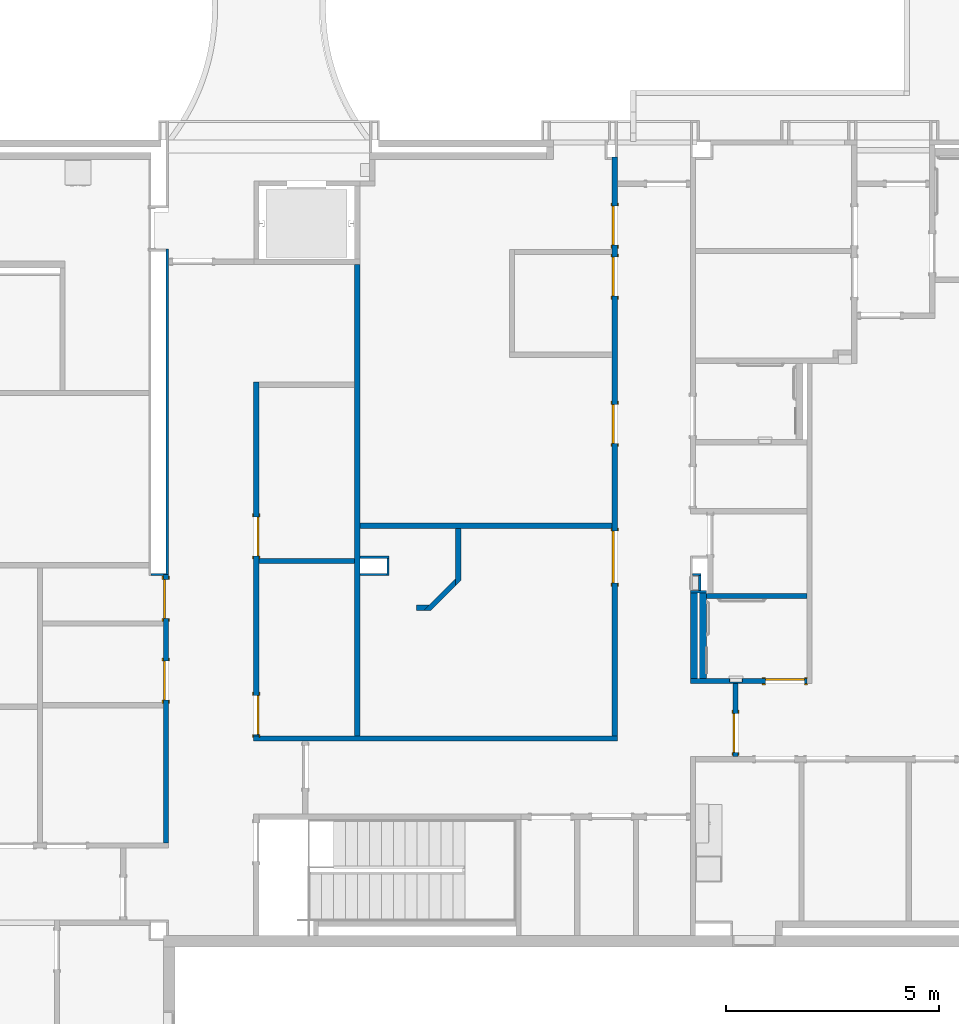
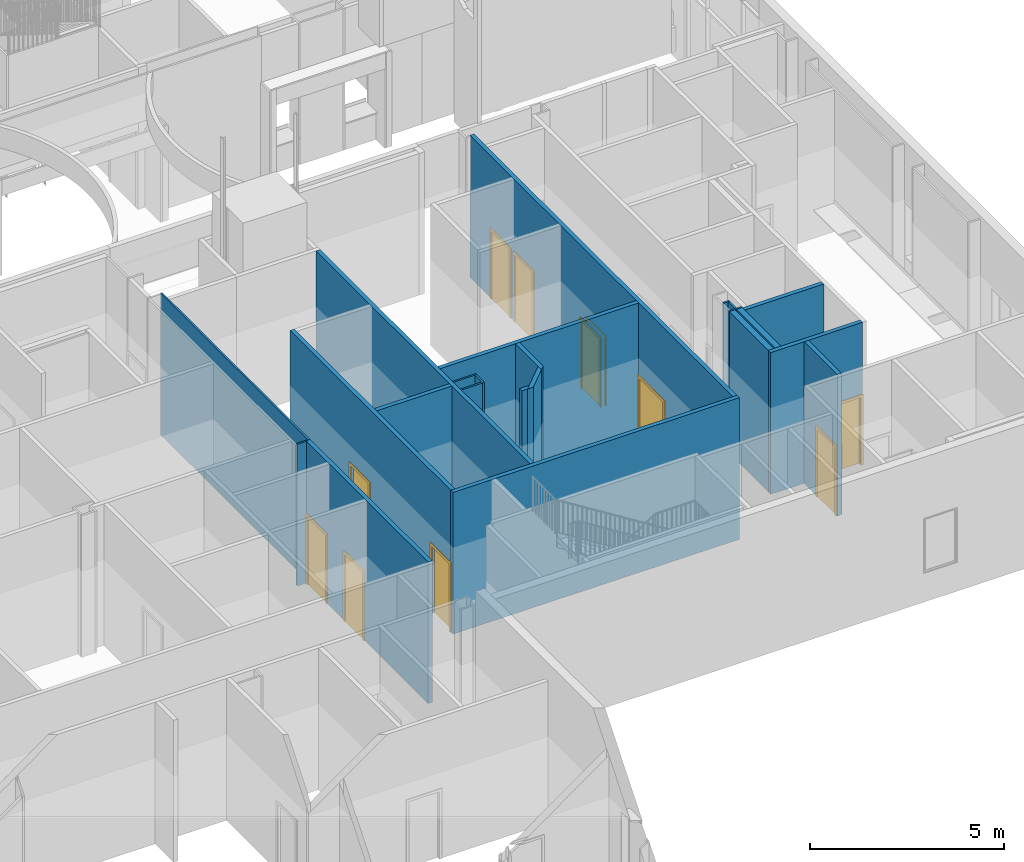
# One storey, part 24 of 87: 23 walls, 10 doors, 11 openings.
"""IFC2X3 building model written with IfcOpenShell, lengths in metres."""

from ifc_helpers import new_model, entity, si_unit, converted_unit, frame, frame_2d, origin, origin_2d_with_axis, place, context, project, spatial, polyline, rectangle, outline, extrude, source, transform, mapped, material, layer, layer_set, layer_usage, type_object, type_shapes, element, fill, save


model = new_model("IFC2X3")

# Units and contexts
model_context = context("Model", 3, precision=1e-09, world=origin())
plan_context = context("Plan", 3, precision=1e-09, world=origin())
ifc_project = project(units=[si_unit("LENGTHUNIT", "METRE"), si_unit("AREAUNIT", "SQUARE_METRE"), si_unit("VOLUMEUNIT", "CUBIC_METRE"), converted_unit("PLANEANGLEUNIT", "DEGREE", entity("IfcRatioMeasure", 0.01745329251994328), si_unit("PLANEANGLEUNIT", "RADIAN"), dimensions=[0, 0, 0, 0, 0, 0, 0]), si_unit("TIMEUNIT", "SECOND")], contexts=[model_context, plan_context])

# Site, building, storey
site_placement = place(None, origin())
site = spatial("IfcSite", under=ifc_project, at=site_placement, Name="Default", CompositionType="ELEMENT")
building_placement = place(site_placement, origin())
building = spatial("IfcBuilding", under=site, at=building_placement, CompositionType="ELEMENT")
storey_placement = place(building_placement, origin())
storey = spatial("IfcBuildingStorey", under=building, at=storey_placement, Name="First Floor", CompositionType="ELEMENT", Elevation=-3.531500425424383e-13)

# Wall, openings, doors
ifc_material_1 = material(Name="Plasterboard")
ifc_layer_1 = layer(ifc_material_1, 0.016)
ifc_material_2 = material(Name="Metal - Stud Layer")
ifc_layer_2 = layer(ifc_material_2, 0.092)
ifc_layer_3 = layer(ifc_material_1, 0.016)
ifc_layer_set_1 = layer_set([ifc_layer_1, ifc_layer_2, ifc_layer_3], Name="Basic Wall:Interior - Partition (92mm Stud)")
ifc_layer_usage_1 = layer_usage(ifc_layer_set_1, "AXIS2", "NEGATIVE", 0.062)
wall_1_placement = place(storey_placement, frame((-19.89200000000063, 18.40699999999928, 0.0), z_axis=(0.0, 0.0, 1.0), x_axis=(0.0, -1.0, 0.0)))
wall_1 = element("IfcWallStandardCase", 1, at=wall_1_placement, inside=storey, material=ifc_layer_usage_1, Name="Basic Wall:Interior - Partition (92mm Stud)", ObjectType="Basic Wall:Interior - Partition (92mm Stud)", context=model_context, shape_type="SweptSolid", body=[
    extrude(rectangle(XDim=6.303000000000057, YDim=0.1239999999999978, at=frame_2d((3.151500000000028, 0.0), x_axis=(-1.0, 0.0))), origin(), (0.0, 0.0, 1.0), 4.468000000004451),
])
opening_1_placement = place(wall_1_placement, frame((2.953000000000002, 0.06199999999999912, 0.0)))
opening_1 = element("IfcOpeningElement", 2, at=opening_1_placement, cuts=wall_1, Name="M_Single-Flush:0915 x 2134mm:0915 x 2134mm:1", ObjectType="Opening", context=model_context, shape_type="SweptSolid", body=[
    extrude(rectangle(XDim=0.9149999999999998, YDim=2.134, at=frame_2d((1.067, 0.4574999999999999), x_axis=(0.0, -1.0))), frame((0.0, 0.0, 0.0), z_axis=(0.0, -1.0, 0.0), x_axis=(0.0, 0.0, 1.0)), (0.0, 0.0, 1.0), 0.124),
])
opening_2_placement = place(wall_1_placement, frame((1.03299999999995, 0.06200000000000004, 0.0)))
opening_2 = element("IfcOpeningElement", 3, at=opening_2_placement, cuts=wall_1, Name="M_Single-Flush:0915 x 2134mm:0915 x 2134mm:1", ObjectType="Opening", context=model_context, shape_type="SweptSolid", body=[
    extrude(rectangle(XDim=0.9149999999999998, YDim=2.134, at=frame_2d((1.067, 0.4575000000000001), x_axis=(0.0, -1.0))), frame((0.0, 0.0, 0.0), z_axis=(0.0, -1.0, 0.0), x_axis=(0.0, 0.0, 1.0)), (0.0, 0.0, 1.0), 0.124),
])
door_style_1 = type_object("IfcDoorStyle", Name="0915 x 2134mm", ConstructionType="NOTDEFINED", OperationType="SINGLE_SWING_LEFT", ParameterTakesPrecedence=False, Sizeable=False)
shared_shape_1 = source(origin(), model_context, "Body", "SweptSolid", [
    extrude(outline(polyline([(-0.5335, -1.123999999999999), (0.5334999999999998, -1.123999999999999), (0.5334999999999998, 1.086), (0.4574999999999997, 1.086), (0.4574999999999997, -1.048000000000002), (-0.4574999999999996, -1.048000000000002), (-0.4574999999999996, 1.086), (-0.5335, 1.086), (-0.5335, -1.123999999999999)])), frame((0.4575000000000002, 0.1489999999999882, 1.086), z_axis=(0.0, -1.0, 0.0), x_axis=(-1.0, 0.0, 0.0)), (0.0, 0.0, 1.0), 0.02499999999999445),
    extrude(outline(polyline([(-1.123999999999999, -0.5334999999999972), (1.085999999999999, -0.5334999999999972), (1.085999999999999, -0.4575000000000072), (-1.048, -0.4575000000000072), (-1.048, 0.4575000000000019), (1.085999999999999, 0.4575000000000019), (1.085999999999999, 0.5335000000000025), (-1.123999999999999, 0.5335000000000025), (-1.123999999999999, -0.5334999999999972)])), frame((0.4574999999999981, 0.0, 1.085999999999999), z_axis=(0.0, -1.0, 0.0), x_axis=(0.0, 0.0, -1.0)), (0.0, 0.0, 1.0), 0.02500000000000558),
    extrude(rectangle(XDim=0.9149999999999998, YDim=0.051, at=origin_2d_with_axis()), frame((0.4575000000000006, 0.09849999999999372, 0.0)), (0.0, 0.0, 1.0), 2.133999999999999),
])
type_shapes(door_style_1, [shared_shape_1])
door_1_placement = place(opening_1_placement, frame((0.0, 0.0, 0.0), z_axis=(0.0, 0.0, 1.0), x_axis=(-1.0, 0.0, 0.0)))
door_1 = element("IfcDoor", 4, at=door_1_placement, inside=storey, type_object=door_style_1, Name="M_Single-Flush:0915 x 2134mm:0915 x 2134mm", ObjectType="0915 x 2134mm", OverallHeight=2.134, OverallWidth=0.9149999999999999, context=model_context, shape_type="MappedRepresentation", body=[
    mapped(shared_shape_1, transform((0.0, 0.0, 0.0), scale=1.0)),
])
fill(opening_1, door_1)
door_2_placement = place(opening_2_placement, frame((0.0, 0.0, 0.0), z_axis=(0.0, 0.0, 1.0), x_axis=(-1.0, 0.0, 0.0)))
door_2 = element("IfcDoor", 5, at=door_2_placement, inside=storey, type_object=door_style_1, Name="M_Single-Flush:0915 x 2134mm:0915 x 2134mm", ObjectType="0915 x 2134mm", OverallHeight=2.134, OverallWidth=0.9149999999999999, context=model_context, shape_type="MappedRepresentation", body=[
    mapped(shared_shape_1, transform((0.0, 0.0, 0.0), scale=1.0)),
])
fill(opening_2, door_2)

# Wall, openings, door
ifc_layer_usage_2 = layer_usage(ifc_layer_set_1, "AXIS2", "NEGATIVE", 0.062)
wall_2_placement = place(storey_placement, frame((-4.843975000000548, 15.90199999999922, 0.0), z_axis=(0.0, 0.0, 1.0), x_axis=(-1.0, 0.0, 0.0)))
wall_2 = element("IfcWallStandardCase", 6, at=wall_2_placement, inside=storey, material=ifc_layer_usage_2, Name="Basic Wall:Interior - Partition (92mm Stud)", ObjectType="Basic Wall:Interior - Partition (92mm Stud)", context=model_context, shape_type="SweptSolid", body=[
    extrude(rectangle(XDim=2.736000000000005, YDim=0.1240000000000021, at=frame_2d((1.368000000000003, 0.0), x_axis=(-1.0, 0.0))), origin(), (0.0, 0.0, 1.0), 4.468000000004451),
])
opening_3_placement = place(wall_2_placement, origin())
element("IfcOpeningElement", 7, at=opening_3_placement, cuts=wall_2, ObjectType="Opening", context=model_context, shape_type="SweptSolid", body=[
    extrude(rectangle(XDim=1.362075, YDim=0.2984500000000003, at=origin_2d_with_axis()), frame((1.660925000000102, -0.1255000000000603, 1.041399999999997), z_axis=(0.0, 1.0, 0.0), x_axis=(0.0, 0.0, -1.0)), (0.0, 0.0, 1.0), 0.1524000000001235),
])
opening_4_placement = place(wall_2_placement, frame((0.9750000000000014, 0.06199999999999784, 0.0)))
opening_4 = element("IfcOpeningElement", 8, at=opening_4_placement, cuts=wall_2, Name="M_Single-Flush:0915 x 2134mm:0915 x 2134mm:1", ObjectType="Opening", context=model_context, shape_type="SweptSolid", body=[
    extrude(rectangle(XDim=0.9150000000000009, YDim=2.134, at=frame_2d((1.067, 0.4575), x_axis=(0.0, 1.0))), frame((0.0, 0.0, 0.0), z_axis=(0.0, -1.0, 0.0), x_axis=(0.0, 0.0, 1.0)), (0.0, 0.0, 1.0), 0.124),
])
door_style_2 = type_object("IfcDoorStyle", Name="0915 x 2134mm", ConstructionType="NOTDEFINED", OperationType="SINGLE_SWING_RIGHT", ParameterTakesPrecedence=False, Sizeable=False)
shared_shape_2 = source(origin(), model_context, "Body", "SweptSolid", [
    extrude(outline(polyline([(-0.5335, -1.123999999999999), (0.5334999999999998, -1.123999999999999), (0.5334999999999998, 1.086), (0.4574999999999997, 1.086), (0.4574999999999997, -1.048000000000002), (-0.4574999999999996, -1.048000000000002), (-0.4574999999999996, 1.086), (-0.5335, 1.086), (-0.5335, -1.123999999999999)])), frame((0.4575000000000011, 0.1239999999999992, 1.086), z_axis=(0.0, 1.0, 0.0), x_axis=(1.0, 0.0, 0.0)), (0.0, 0.0, 1.0), 0.02499999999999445),
    extrude(outline(polyline([(-1.123999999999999, -0.5334999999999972), (1.085999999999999, -0.5334999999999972), (1.085999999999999, -0.4575000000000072), (-1.048, -0.4575000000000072), (-1.048, 0.4575000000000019), (1.085999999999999, 0.4575000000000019), (1.085999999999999, 0.5335000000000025), (-1.123999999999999, 0.5335000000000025), (-1.123999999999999, -0.5334999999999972)])), frame((0.4575000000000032, -0.02500000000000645, 1.085999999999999), z_axis=(0.0, 1.0, 0.0), x_axis=(0.0, 0.0, -1.0)), (0.0, 0.0, 1.0), 0.02500000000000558),
    extrude(rectangle(XDim=0.051, YDim=0.9149999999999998, at=origin_2d_with_axis()), frame((0.4575000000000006, 0.09849999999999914, 0.0), z_axis=(0.0, 0.0, 1.0), x_axis=(0.0, 1.0, 0.0)), (0.0, 0.0, 1.0), 2.133999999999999),
])
type_shapes(door_style_2, [shared_shape_2])
door_3_placement = place(opening_4_placement, frame((0.0, 0.0, 0.0), z_axis=(0.0, 0.0, 1.0), x_axis=(-1.0, 0.0, 0.0)))
door_3 = element("IfcDoor", 9, at=door_3_placement, inside=storey, type_object=door_style_2, Name="M_Single-Flush:0915 x 2134mm:0915 x 2134mm", ObjectType="0915 x 2134mm", OverallHeight=2.134, OverallWidth=0.9149999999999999, context=model_context, shape_type="MappedRepresentation", body=[
    mapped(shared_shape_2, transform((0.0, 0.0, 0.0), scale=1.0)),
])
fill(opening_4, door_3)

# Wall, opening, door
ifc_layer_usage_3 = layer_usage(ifc_layer_set_1, "AXIS2", "NEGATIVE", 0.062)
wall_3_placement = place(storey_placement, frame((-6.517975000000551, 14.12999999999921, 0.0), z_axis=(0.0, 0.0, 1.0), x_axis=(0.0, 1.0, 0.0)))
wall_3 = element("IfcWallStandardCase", 10, at=wall_3_placement, inside=storey, material=ifc_layer_usage_3, Name="Basic Wall:Interior - Partition (92mm Stud)", ObjectType="Basic Wall:Interior - Partition (92mm Stud)", context=model_context, shape_type="SweptSolid", body=[
    extrude(rectangle(XDim=1.710000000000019, YDim=0.124, at=frame_2d((0.8550000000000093, 0.0), x_axis=(-1.0, 0.0))), origin(), (0.0, 0.0, 1.0), 4.46800000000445),
])
opening_5_placement = place(wall_3_placement, frame((0.1000000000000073, -0.06200000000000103, 0.0)))
opening_5 = element("IfcOpeningElement", 11, at=opening_5_placement, cuts=wall_3, Name="M_Single-Flush:0915 x 2134mm:0915 x 2134mm:1", ObjectType="Opening", context=model_context, shape_type="SweptSolid", body=[
    extrude(rectangle(XDim=0.9149999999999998, YDim=2.134, at=frame_2d((1.067, 0.4575000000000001), x_axis=(0.0, -1.0))), frame((0.0, 0.0, 0.0), z_axis=(0.0, 1.0, 0.0), x_axis=(0.0, 0.0, 1.0)), (0.0, 0.0, 1.0), 0.124),
])
door_4_placement = place(opening_5_placement, origin())
door_4 = element("IfcDoor", 12, at=door_4_placement, inside=storey, type_object=door_style_1, Name="M_Single-Flush:0915 x 2134mm:0915 x 2134mm", ObjectType="0915 x 2134mm", OverallHeight=2.134, OverallWidth=0.9149999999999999, context=model_context, shape_type="MappedRepresentation", body=[
    mapped(shared_shape_1, transform((0.0, 0.0, 0.0), scale=1.0)),
])
fill(opening_5, door_4)

# Walls
ifc_layer_4 = layer(ifc_material_2, 0.152)
ifc_layer_5 = layer(ifc_material_1, 0.016)
ifc_layer_set_2 = layer_set([ifc_layer_4, ifc_layer_5], Name="Basic Wall:Interior - Furring (152 mm Stud)")
ifc_layer_usage_4 = layer_usage(ifc_layer_set_2, "AXIS2", "POSITIVE", -0.08399999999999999)
wall_4_placement = place(storey_placement, frame((-7.495975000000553, 15.96399999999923, 0.0), z_axis=(0.0, 0.0, 1.0), x_axis=(0.0, 1.0, 0.0)))
element("IfcWallStandardCase", 13, at=wall_4_placement, inside=storey, material=ifc_layer_usage_4, Name="Basic Wall:Interior - Furring (152 mm Stud)", ObjectType="Basic Wall:Interior - Furring (152 mm Stud)", context=model_context, shape_type="SweptSolid", body=[
    extrude(rectangle(XDim=2.011999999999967, YDim=0.1680000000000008, at=frame_2d((1.005999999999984, 0.0), x_axis=(-1.0, 0.0))), origin(), (0.0, 0.0, 1.0), 4.46800000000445),
])
ifc_layer_6 = layer(ifc_material_2, 0.038)
ifc_layer_7 = layer(ifc_material_1, 0.016)
ifc_layer_set_3 = layer_set([ifc_layer_6, ifc_layer_7], Name="Basic Wall:Interior - Furring (38 mm Stud)")
ifc_layer_usage_5 = layer_usage(ifc_layer_set_3, "AXIS2", "POSITIVE", -0.027)
wall_5_placement = place(storey_placement, frame((-7.57997500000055, 18.0029999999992, 0.0)))
element("IfcWallStandardCase", 14, at=wall_5_placement, inside=storey, material=ifc_layer_usage_5, Name="Basic Wall:Interior - Furring (38 mm Stud)", ObjectType="Basic Wall:Interior - Furring (38 mm Stud)", context=model_context, shape_type="SweptSolid", body=[
    extrude(rectangle(XDim=0.3799999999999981, YDim=0.05400000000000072, at=frame_2d((0.189999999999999, 0.0), x_axis=(-1.0, 0.0))), origin(), (0.0, 0.0, 1.0), 4.46800000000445),
])
ifc_layer_usage_6 = layer_usage(ifc_layer_set_3, "AXIS2", "POSITIVE", -0.027)
wall_6_placement = place(storey_placement, frame((-7.355475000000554, 18.0299999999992, 0.0), z_axis=(0.0, 0.0, 1.0), x_axis=(0.0, 1.0, 0.0)))
element("IfcWallStandardCase", 15, at=wall_6_placement, inside=storey, material=ifc_layer_usage_6, Name="Basic Wall:Interior - Furring (38 mm Stud)", ObjectType="Basic Wall:Interior - Furring (38 mm Stud)", context=model_context, shape_type="SweptSolid", body=[
    extrude(rectangle(XDim=0.3500000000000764, YDim=0.05400000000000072, at=frame_2d((0.1750000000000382, 0.0), x_axis=(-1.0, 0.0))), origin(), (0.0, 0.0, 1.0), 4.46800000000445),
])
ifc_layer_usage_7 = layer_usage(ifc_layer_set_3, "AXIS2", "POSITIVE", -0.027)
wall_7_placement = place(storey_placement, frame((-7.328475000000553, 18.40699999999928, 0.0), z_axis=(0.0, 0.0, 1.0), x_axis=(-1.0, 0.0, 0.0)))
element("IfcWallStandardCase", 16, at=wall_7_placement, inside=storey, material=ifc_layer_usage_7, Name="Basic Wall:Interior - Furring (38 mm Stud)", ObjectType="Basic Wall:Interior - Furring (38 mm Stud)", context=model_context, shape_type="SweptSolid", body=[
    extrude(rectangle(XDim=0.1974999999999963, YDim=0.05400000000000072, at=frame_2d((0.09874999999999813, 0.0), x_axis=(-1.0, 0.0))), origin(), (0.0, 0.0, 1.0), 4.468000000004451),
])
ifc_layer_usage_8 = layer_usage(ifc_layer_set_1, "AXIS2", "NEGATIVE", 0.062)
wall_8_placement = place(storey_placement, frame((-7.199975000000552, 17.89799999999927, 0.0)))
element("IfcWallStandardCase", 17, at=wall_8_placement, inside=storey, material=ifc_layer_usage_8, Name="Basic Wall:Interior - Partition (92mm Stud)", ObjectType="Basic Wall:Interior - Partition (92mm Stud)", context=model_context, shape_type="SweptSolid", body=[
    extrude(rectangle(XDim=2.356000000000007, YDim=0.1240000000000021, at=frame_2d((1.178000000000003, 0.0), x_axis=(-1.0, 0.0))), origin(), (0.0, 0.0, 1.0), 4.468000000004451),
])
ifc_layer_usage_9 = layer_usage(ifc_layer_set_2, "AXIS2", "POSITIVE", -0.08399999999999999)
wall_9_placement = place(storey_placement, frame((-7.283975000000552, 17.9759999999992, 0.0), z_axis=(0.0, 0.0, 1.0), x_axis=(0.0, -1.0, 0.0)))
element("IfcWallStandardCase", 18, at=wall_9_placement, inside=storey, material=ifc_layer_usage_9, Name="Basic Wall:Interior - Furring (152 mm Stud)", ObjectType="Basic Wall:Interior - Furring (152 mm Stud)", context=model_context, shape_type="SweptSolid", body=[
    extrude(rectangle(XDim=2.011999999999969, YDim=0.1680000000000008, at=frame_2d((1.005999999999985, 0.0), x_axis=(-1.0, 0.0))), origin(), (0.0, 0.0, 1.0), 4.46800000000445),
])
ifc_layer_usage_10 = layer_usage(ifc_layer_set_1, "AXIS2", "NEGATIVE", 0.062)
wall_10_placement = place(storey_placement, frame((-9.2899750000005, 14.55199999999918, 0.0), z_axis=(0.0, 0.0, 1.0), x_axis=(-1.0, 0.0, 0.0)))
element("IfcWallStandardCase", 19, at=wall_10_placement, inside=storey, material=ifc_layer_usage_10, Name="Basic Wall:Interior - Partition (92mm Stud)", ObjectType="Basic Wall:Interior - Partition (92mm Stud)", context=model_context, shape_type="SweptSolid", body=[
    extrude(rectangle(XDim=8.540025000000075, YDim=0.1240000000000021, at=frame_2d((4.270012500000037, 0.0), x_axis=(-1.0, 0.0))), origin(), (0.0, 0.0, 1.0), 4.468000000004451),
])

# Wall, openings, doors
ifc_layer_usage_11 = layer_usage(ifc_layer_set_1, "AXIS2", "NEGATIVE", 0.062)
wall_11_placement = place(storey_placement, frame((-17.76800000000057, 14.61399999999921, 0.0), z_axis=(0.0, 0.0, 1.0), x_axis=(0.0, 1.0, 0.0)))
wall_11 = element("IfcWallStandardCase", 20, at=wall_11_placement, inside=storey, material=ifc_layer_usage_11, Name="Basic Wall:Interior - Partition (92mm Stud)", ObjectType="Basic Wall:Interior - Partition (92mm Stud)", context=model_context, shape_type="SweptSolid", body=[
    extrude(rectangle(XDim=8.306030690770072, YDim=0.1240000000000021, at=frame_2d((4.153015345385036, 0.0), x_axis=(-1.0, 0.0))), origin(), (0.0, 0.0, 1.0), 4.46800000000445),
])
opening_6_placement = place(wall_11_placement, frame((0.9549999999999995, 0.06200000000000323, 0.0)))
opening_6 = element("IfcOpeningElement", 21, at=opening_6_placement, cuts=wall_11, Name="M_Single-Flush:0915 x 2134mm:0915 x 2134mm:1", ObjectType="Opening", context=model_context, shape_type="SweptSolid", body=[
    extrude(rectangle(XDim=0.9149999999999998, YDim=2.134, at=frame_2d((1.067, 0.4575), x_axis=(0.0, 1.0))), frame((0.0, 0.0, 0.0), z_axis=(0.0, -1.0, 0.0), x_axis=(0.0, 0.0, 1.0)), (0.0, 0.0, 1.0), 0.124),
])
opening_7_placement = place(wall_11_placement, frame((5.145030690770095, 0.06199999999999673, 0.0)))
opening_7 = element("IfcOpeningElement", 22, at=opening_7_placement, cuts=wall_11, Name="M_Single-Flush:0915 x 2134mm:0915 x 2134mm:1", ObjectType="Opening", context=model_context, shape_type="SweptSolid", body=[
    extrude(rectangle(XDim=0.9149999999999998, YDim=2.134, at=frame_2d((1.067, 0.4575), x_axis=(0.0, 1.0))), frame((0.0, 0.0, 0.0), z_axis=(0.0, -1.0, 0.0), x_axis=(0.0, 0.0, 1.0)), (0.0, 0.0, 1.0), 0.124),
])
door_5_placement = place(opening_6_placement, frame((0.0, 0.0, 0.0), z_axis=(0.0, 0.0, 1.0), x_axis=(-1.0, 0.0, 0.0)))
door_5 = element("IfcDoor", 23, at=door_5_placement, inside=storey, type_object=door_style_2, Name="M_Single-Flush:0915 x 2134mm:0915 x 2134mm", ObjectType="0915 x 2134mm", OverallHeight=2.134, OverallWidth=0.9149999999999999, context=model_context, shape_type="MappedRepresentation", body=[
    mapped(shared_shape_2, transform((0.0, 0.0, 0.0), scale=1.0)),
])
fill(opening_6, door_5)
door_6_placement = place(opening_7_placement, frame((0.0, 0.0, 0.0), z_axis=(0.0, 0.0, 1.0), x_axis=(-1.0, 0.0, 0.0)))
door_6 = element("IfcDoor", 24, at=door_6_placement, inside=storey, type_object=door_style_2, Name="M_Single-Flush:0915 x 2134mm:0915 x 2134mm", ObjectType="0915 x 2134mm", OverallHeight=2.134, OverallWidth=0.9149999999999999, context=model_context, shape_type="MappedRepresentation", body=[
    mapped(shared_shape_2, transform((0.0, 0.0, 0.0), scale=1.0)),
])
fill(opening_7, door_6)

# Walls
ifc_layer_usage_12 = layer_usage(ifc_layer_set_1, "AXIS2", "NEGATIVE", 0.062)
wall_12_placement = place(storey_placement, frame((-15.4600000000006, 18.72203069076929, 0.0), z_axis=(0.0, 0.0, 1.0), x_axis=(-1.0, 0.0, 0.0)))
element("IfcWallStandardCase", 25, at=wall_12_placement, inside=storey, material=ifc_layer_usage_12, Name="Basic Wall:Interior - Partition (92mm Stud)", ObjectType="Basic Wall:Interior - Partition (92mm Stud)", context=model_context, shape_type="SweptSolid", body=[
    extrude(rectangle(XDim=2.24599999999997, YDim=0.1240000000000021, at=frame_2d((1.122999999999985, 0.0), x_axis=(-1.0, 0.0))), origin(), (0.0, 0.0, 1.0), 4.46800000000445),
])
ifc_layer_usage_13 = layer_usage(ifc_layer_set_1, "AXIS2", "NEGATIVE", 0.062)
wall_13_placement = place(storey_placement, frame((-15.3980000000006, 14.6139999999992, 0.0), z_axis=(0.0, 0.0, 1.0), x_axis=(0.0, 1.0, 0.0)))
element("IfcWallStandardCase", 26, at=wall_13_placement, inside=storey, material=ifc_layer_usage_13, Name="Basic Wall:Interior - Partition (92mm Stud)", ObjectType="Basic Wall:Interior - Partition (92mm Stud)", context=model_context, shape_type="SweptSolid", body=[
    extrude(rectangle(XDim=11.06940000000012, YDim=0.1240000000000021, at=frame_2d((5.534700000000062, 0.0), x_axis=(-1.0, 0.0))), origin(), (0.0, 0.0, 1.0), 4.468000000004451),
])

# Wall, openings, doors
ifc_layer_usage_14 = layer_usage(ifc_layer_set_1, "AXIS2", "NEGATIVE", 0.062)
wall_14_placement = place(storey_placement, frame((-9.351975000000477, 28.2039999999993, 0.0), z_axis=(0.0, 0.0, 1.0), x_axis=(0.0, -1.0, 0.0)))
wall_14 = element("IfcWallStandardCase", 27, at=wall_14_placement, inside=storey, material=ifc_layer_usage_14, Name="Basic Wall:Interior - Partition (92mm Stud)", ObjectType="Basic Wall:Interior - Partition (92mm Stud)", context=model_context, shape_type="SweptSolid", body=[
    extrude(rectangle(XDim=13.59000000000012, YDim=0.124, at=frame_2d((6.795000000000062, 0.0), x_axis=(-1.0, 0.0))), origin(), (0.0, 0.0, 1.0), 4.46800000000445),
])
opening_8_placement = place(wall_14_placement, frame((2.064000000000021, 0.06199999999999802, 0.0)))
opening_8 = element("IfcOpeningElement", 28, at=opening_8_placement, cuts=wall_14, Name="M_Single-Flush:0915 x 2134mm:0915 x 2134mm:1", ObjectType="Opening", context=model_context, shape_type="SweptSolid", body=[
    extrude(rectangle(XDim=0.9149999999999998, YDim=2.134, at=frame_2d((1.067, 0.4575000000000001), x_axis=(0.0, -1.0))), frame((0.0, 0.0, 0.0), z_axis=(0.0, -1.0, 0.0), x_axis=(0.0, 0.0, 1.0)), (0.0, 0.0, 1.0), 0.124),
])
opening_9_placement = place(wall_14_placement, frame((3.263000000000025, 0.06199999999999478, 0.0)))
opening_9 = element("IfcOpeningElement", 29, at=opening_9_placement, cuts=wall_14, Name="M_Single-Flush:0915 x 2134mm:0915 x 2134mm:1", ObjectType="Opening", context=model_context, shape_type="SweptSolid", body=[
    extrude(rectangle(XDim=0.9149999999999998, YDim=2.134, at=frame_2d((1.067, 0.4575), x_axis=(0.0, 1.0))), frame((0.0, 0.0, 0.0), z_axis=(0.0, -1.0, 0.0), x_axis=(0.0, 0.0, 1.0)), (0.0, 0.0, 1.0), 0.124),
])
opening_10_placement = place(wall_14_placement, frame((10.00343468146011, 0.06199999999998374, 0.0)))
opening_10 = element("IfcOpeningElement", 30, at=opening_10_placement, cuts=wall_14, Name="M_Single-Flush:1.220 x 2134mm:1.220 x 2134mm:1", ObjectType="Opening", context=model_context, shape_type="SweptSolid", body=[
    extrude(rectangle(XDim=1.22, YDim=2.134, at=frame_2d((1.067, 0.6100000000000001), x_axis=(0.0, 1.0))), frame((0.0, 0.0, 0.0), z_axis=(0.0, -1.0, 0.0), x_axis=(0.0, 0.0, 1.0)), (0.0, 0.0, 1.0), 0.124),
])
opening_11_placement = place(wall_14_placement, frame((6.718999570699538, 0.06199999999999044, 0.0)))
opening_11 = element("IfcOpeningElement", 31, at=opening_11_placement, cuts=wall_14, Name="M_Single-Flush:0915 x 2134mm:0915 x 2134mm:1", ObjectType="Opening", context=model_context, shape_type="SweptSolid", body=[
    extrude(rectangle(XDim=0.9149999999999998, YDim=2.134, at=frame_2d((1.067, 0.4574999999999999), x_axis=(0.0, -1.0))), frame((0.0, 0.0, 0.0), z_axis=(0.0, -1.0, 0.0), x_axis=(0.0, 0.0, 1.0)), (0.0, 0.0, 1.0), 0.124),
])
door_7_placement = place(opening_9_placement, frame((0.0, 0.0, 0.0), z_axis=(0.0, 0.0, 1.0), x_axis=(-1.0, 0.0, 0.0)))
door_7 = element("IfcDoor", 32, at=door_7_placement, inside=storey, type_object=door_style_2, Name="M_Single-Flush:0915 x 2134mm:0915 x 2134mm", ObjectType="0915 x 2134mm", OverallHeight=2.134, OverallWidth=0.9149999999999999, context=model_context, shape_type="MappedRepresentation", body=[
    mapped(shared_shape_2, transform((0.0, 0.0, 0.0), scale=1.0)),
])
fill(opening_9, door_7)
door_8_placement = place(opening_8_placement, frame((0.0, 0.0, 0.0), z_axis=(0.0, 0.0, 1.0), x_axis=(-1.0, 0.0, 0.0)))
door_8 = element("IfcDoor", 33, at=door_8_placement, inside=storey, type_object=door_style_1, Name="M_Single-Flush:0915 x 2134mm:0915 x 2134mm", ObjectType="0915 x 2134mm", OverallHeight=2.134, OverallWidth=0.9149999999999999, context=model_context, shape_type="MappedRepresentation", body=[
    mapped(shared_shape_1, transform((0.0, 0.0, 0.0), scale=1.0)),
])
fill(opening_8, door_8)
door_9_placement = place(opening_11_placement, frame((0.0, 0.0, 0.0), z_axis=(0.0, 0.0, 1.0), x_axis=(-1.0, 0.0, 0.0)))
door_9 = element("IfcDoor", 34, at=door_9_placement, inside=storey, type_object=door_style_1, Name="M_Single-Flush:0915 x 2134mm:0915 x 2134mm", ObjectType="0915 x 2134mm", OverallHeight=2.134, OverallWidth=0.9149999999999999, context=model_context, shape_type="MappedRepresentation", body=[
    mapped(shared_shape_1, transform((0.0, 0.0, 0.0), scale=1.0)),
])
fill(opening_11, door_9)
door_style_3 = type_object("IfcDoorStyle", Name="1.220 x 2134mm", ConstructionType="NOTDEFINED", OperationType="SINGLE_SWING_RIGHT", ParameterTakesPrecedence=False, Sizeable=False)
shared_shape_3 = source(origin(), model_context, "Body", "SweptSolid", [
    extrude(outline(polyline([(-0.6859999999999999, -1.123999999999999), (0.6859999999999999, -1.123999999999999), (0.6859999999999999, 1.086), (0.61, 1.086), (0.61, -1.048000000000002), (-0.6099999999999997, -1.048000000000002), (-0.6099999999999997, 1.086), (-0.6859999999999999, 1.086), (-0.6859999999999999, -1.123999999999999)])), frame((0.610000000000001, 0.1240000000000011, 1.086), z_axis=(0.0, 1.0, 0.0), x_axis=(1.0, 0.0, 0.0)), (0.0, 0.0, 1.0), 0.02499999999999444),
    extrude(outline(polyline([(-1.124, -0.6859999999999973), (1.086, -0.6859999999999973), (1.086, -0.6100000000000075), (-1.048, -0.6100000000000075), (-1.048, 0.6100000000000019), (1.086, 0.6100000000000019), (1.086, 0.6860000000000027), (-1.124, 0.6860000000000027), (-1.124, -0.6859999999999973)])), frame((0.6100000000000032, -0.02500000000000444, 1.086), z_axis=(0.0, 1.0, 0.0), x_axis=(0.0, 0.0, -1.0)), (0.0, 0.0, 1.0), 0.02500000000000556),
    extrude(rectangle(XDim=0.051, YDim=1.22, at=origin_2d_with_axis()), frame((0.6100000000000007, 0.09850000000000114, 0.0), z_axis=(0.0, 0.0, 1.0), x_axis=(0.0, 1.0, 0.0)), (0.0, 0.0, 1.0), 2.133999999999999),
])
type_shapes(door_style_3, [shared_shape_3])
door_10_placement = place(opening_10_placement, frame((0.0, 0.0, 0.0), z_axis=(0.0, 0.0, 1.0), x_axis=(-1.0, 0.0, 0.0)))
door_10 = element("IfcDoor", 35, at=door_10_placement, inside=storey, type_object=door_style_3, Name="M_Single-Flush:1.220 x 2134mm:1.220 x 2134mm", ObjectType="1.220 x 2134mm", OverallHeight=2.134, OverallWidth=1.22, context=model_context, shape_type="MappedRepresentation", body=[
    mapped(shared_shape_3, transform((0.0, 0.0, 0.0), scale=1.0)),
])
fill(opening_10, door_10)

# Walls
ifc_layer_usage_15 = layer_usage(ifc_layer_set_1, "AXIS2", "NEGATIVE", 0.062)
wall_15_placement = place(storey_placement, frame((-15.3360000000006, 19.54799999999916, 0.0)))
element("IfcWallStandardCase", 36, at=wall_15_placement, inside=storey, material=ifc_layer_usage_15, Name="Basic Wall:Interior - Partition (92mm Stud)", ObjectType="Basic Wall:Interior - Partition (92mm Stud)", context=model_context, shape_type="SweptSolid", body=[
    extrude(rectangle(XDim=5.922025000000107, YDim=0.124, at=frame_2d((2.961012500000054, 0.0), x_axis=(-1.0, 0.0))), origin(), (0.0, 0.0, 1.0), 4.46800000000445),
])
ifc_layer_usage_16 = layer_usage(ifc_layer_set_1, "AXIS2", "NEGATIVE", 0.062)
wall_16_placement = place(storey_placement, frame((-13.02700950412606, 19.48599999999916, 0.0), z_axis=(0.0, 0.0, 1.0), x_axis=(0.0, -1.0, 0.0)))
element("IfcWallStandardCase", 37, at=wall_16_placement, inside=storey, material=ifc_layer_usage_16, Name="Basic Wall:Interior - Partition (92mm Stud)", ObjectType="Basic Wall:Interior - Partition (92mm Stud)", context=model_context, shape_type="SweptSolid", body=[
    extrude(outline(polyline([(1.347279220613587, -0.06199999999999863), (1.223279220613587, 0.06200000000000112), (0.0, 0.06200000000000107), (0.0, -0.0619999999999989), (1.171916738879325, -0.06199999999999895), (1.347279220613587, -0.06199999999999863)])), origin(), (0.0, 0.0, 1.0), 4.46800000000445),
])
ifc_layer_usage_17 = layer_usage(ifc_layer_set_1, "AXIS2", "NEGATIVE", 0.062)
wall_17_placement = place(storey_placement, frame((-13.04516888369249, 18.27024264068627, 0.0), z_axis=(0.0, 0.0, 1.0), x_axis=(-0.7071067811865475, -0.7071067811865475, 0.0)))
element("IfcWallStandardCase", 38, at=wall_17_placement, inside=storey, material=ifc_layer_usage_17, Name="Basic Wall:Interior - Partition (92mm Stud)", ObjectType="Basic Wall:Interior - Partition (92mm Stud)", context=model_context, shape_type="SweptSolid", body=[
    extrude(outline(polyline([(1.062195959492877, -0.06199999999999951), (0.9381959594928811, 0.06199999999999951), (0.1239999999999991, 0.06199999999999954), (0.0, -0.06199999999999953), (0.8868334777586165, -0.06199999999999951), (1.062195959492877, -0.06199999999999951)])), origin(), (0.0, 0.0, 1.0), 4.46800000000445),
])
ifc_layer_usage_18 = layer_usage(ifc_layer_set_1, "AXIS2", "NEGATIVE", 0.062)
wall_18_placement = place(storey_placement, frame((-13.71609547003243, 17.62499729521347, 0.0), z_axis=(0.0, 0.0, 1.0), x_axis=(-1.0, 0.0, 0.0)))
element("IfcWallStandardCase", 39, at=wall_18_placement, inside=storey, material=ifc_layer_usage_18, Name="Basic Wall:Interior - Partition (92mm Stud)", ObjectType="Basic Wall:Interior - Partition (92mm Stud)", context=model_context, shape_type="SweptSolid", body=[
    extrude(outline(polyline([(0.2888795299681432, -0.06199999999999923), (0.2888795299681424, 0.06200000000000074), (0.1239999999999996, 0.06200000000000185), (0.0, -0.0619999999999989), (0.2888795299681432, -0.06199999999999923)])), origin(), (0.0, 0.0, 1.0), 4.46800000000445),
])
ifc_layer_usage_19 = layer_usage(ifc_layer_set_3, "AXIS2", "POSITIVE", -0.027)
wall_19_placement = place(storey_placement, frame((-15.3360000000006, 18.81299999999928, 0.0)))
element("IfcWallStandardCase", 40, at=wall_19_placement, inside=storey, material=ifc_layer_usage_19, Name="Basic Wall:Interior - Furring (38 mm Stud)", ObjectType="Basic Wall:Interior - Furring (38 mm Stud)", context=model_context, shape_type="SweptSolid", body=[
    extrude(rectangle(XDim=0.6860250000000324, YDim=0.05400000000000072, at=frame_2d((0.3430125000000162, 0.0), x_axis=(-1.0, 0.0))), origin(), (0.0, 0.0, 1.0), 4.46800000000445),
])
ifc_layer_usage_20 = layer_usage(ifc_layer_set_3, "AXIS2", "POSITIVE", -0.027)
wall_20_placement = place(storey_placement, frame((-14.67697500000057, 18.78599999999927, 0.0), z_axis=(0.0, 0.0, 1.0), x_axis=(0.0, -1.0, 0.0)))
element("IfcWallStandardCase", 41, at=wall_20_placement, inside=storey, material=ifc_layer_usage_20, Name="Basic Wall:Interior - Furring (38 mm Stud)", ObjectType="Basic Wall:Interior - Furring (38 mm Stud)", context=model_context, shape_type="SweptSolid", body=[
    extrude(rectangle(XDim=0.4059999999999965, YDim=0.05400000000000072, at=frame_2d((0.2029999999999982, 0.0), x_axis=(-1.0, 0.0))), origin(), (0.0, 0.0, 1.0), 4.46800000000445),
])
ifc_layer_usage_21 = layer_usage(ifc_layer_set_3, "AXIS2", "POSITIVE", -0.027)
wall_21_placement = place(storey_placement, frame((-14.70397500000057, 18.40699999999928, 0.0), z_axis=(0.0, 0.0, 1.0), x_axis=(-1.0, 0.0, 0.0)))
element("IfcWallStandardCase", 42, at=wall_21_placement, inside=storey, material=ifc_layer_usage_21, Name="Basic Wall:Interior - Furring (38 mm Stud)", ObjectType="Basic Wall:Interior - Furring (38 mm Stud)", context=model_context, shape_type="SweptSolid", body=[
    extrude(rectangle(XDim=0.6320250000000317, YDim=0.05400000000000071, at=frame_2d((0.3160125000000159, 0.0), x_axis=(-1.0, 0.0))), origin(), (0.0, 0.0, 1.0), 4.46800000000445),
])
ifc_layer_usage_22 = layer_usage(ifc_layer_set_3, "AXIS2", "NEGATIVE", 0.027)
wall_22_placement = place(storey_placement, frame((-19.85700000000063, 18.40699999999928, 0.0), z_axis=(0.0, 0.0, 1.0), x_axis=(0.0, 1.0, 0.0)))
element("IfcWallStandardCase", 43, at=wall_22_placement, inside=storey, material=ifc_layer_usage_22, Name="Basic Wall:Interior - Furring (38 mm Stud)", ObjectType="Basic Wall:Interior - Furring (38 mm Stud)", context=model_context, shape_type="SweptSolid", body=[
    extrude(rectangle(XDim=7.639, YDim=0.05399999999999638, at=frame_2d((3.8195, 0.0), x_axis=(-1.0, 0.0))), origin(), (0.0, 0.0, 1.0), 4.46800000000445),
])
ifc_layer_usage_23 = layer_usage(ifc_layer_set_3, "AXIS2", "NEGATIVE", 0.027)
wall_23_placement = place(storey_placement, frame((-20.23600000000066, 18.40699999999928, 0.0)))
element("IfcWallStandardCase", 44, at=wall_23_placement, inside=storey, material=ifc_layer_usage_23, Name="Basic Wall:Interior - Furring (38 mm Stud)", ObjectType="Basic Wall:Interior - Furring (38 mm Stud)", context=model_context, shape_type="SweptSolid", body=[
    extrude(outline(polyline([(0.2820000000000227, -0.02700000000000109), (0.2820000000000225, 0.0), (0.352000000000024, 0.0), (0.3520000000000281, 0.02699999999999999), (0.0, 0.02700000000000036), (0.0, -0.02700000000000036), (0.2820000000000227, -0.02700000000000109)])), origin(), (0.0, 0.0, 1.0), 4.468000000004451),
])

save(model, "model.ifc")
